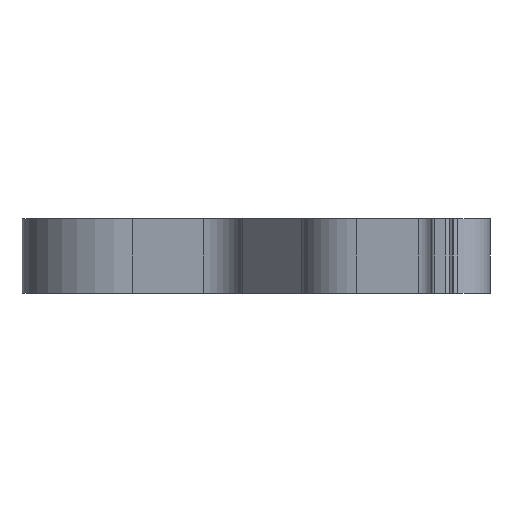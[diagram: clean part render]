
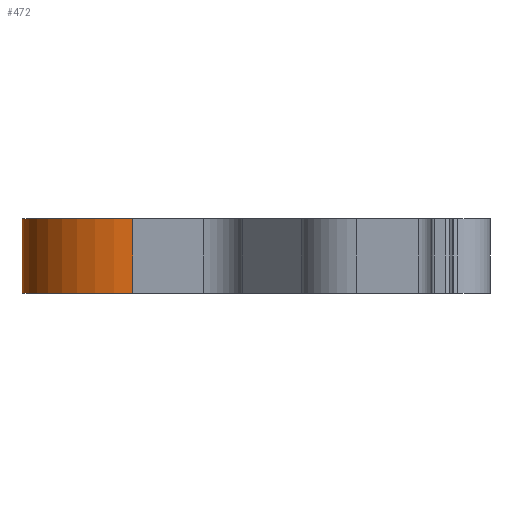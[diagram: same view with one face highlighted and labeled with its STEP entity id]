
A CAD part, front view. The second image highlights one B-rep face of the part: STEP entity #472.
In plain terms, the highlighted cylindrical face has radius 6 mm (diameter 12 mm), a partial arc.
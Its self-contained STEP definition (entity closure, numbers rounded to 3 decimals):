
#389=CARTESIAN_POINT('Vertex',(6.967,6.,2.)) ;
#396=CARTESIAN_POINT('Vertex',(6.967,6.,-2.)) ;
#399=CARTESIAN_POINT('Line Origine',(6.967,6.,0.)) ;
#442=CARTESIAN_POINT('Axis2P3D Location',(7.,0.,0.)) ;
#447=CARTESIAN_POINT('Axis2P3D Location',(7.,0.,2.)) ;
#451=CARTESIAN_POINT('Vertex',(6.967,-6.,2.)) ;
#454=CARTESIAN_POINT('Axis2P3D Location',(7.,0.,-2.)) ;
#458=CARTESIAN_POINT('Vertex',(6.967,-6.,-2.)) ;
#461=CARTESIAN_POINT('Line Origine',(6.967,-6.,0.)) ;
#400=DIRECTION('Vector Direction',(0.,0.,1.)) ;
#443=DIRECTION('Axis2P3D Direction',(0.,-0.,1.)) ;
#444=DIRECTION('Axis2P3D XDirection',(0.012,1.,0.)) ;
#448=DIRECTION('Axis2P3D Direction',(0.,-0.,1.)) ;
#455=DIRECTION('Axis2P3D Direction',(0.,-0.,1.)) ;
#462=DIRECTION('Vector Direction',(0.,0.,1.)) ;
#445=AXIS2_PLACEMENT_3D('Cylinder Axis2P3D',#442,#443,#444) ;
#449=AXIS2_PLACEMENT_3D('Circle Axis2P3D',#447,#448,$) ;
#456=AXIS2_PLACEMENT_3D('Circle Axis2P3D',#454,#455,$) ;
#467=ORIENTED_EDGE('',*,*,#453,.F.) ;
#468=ORIENTED_EDGE('',*,*,#403,.F.) ;
#469=ORIENTED_EDGE('',*,*,#460,.T.) ;
#470=ORIENTED_EDGE('',*,*,#465,.T.) ;
#401=VECTOR('Line Direction',#400,1.) ;
#463=VECTOR('Line Direction',#462,1.) ;
#472=ADVANCED_FACE('\X2\96F64EF651E04F554F53\X0\',(#471),#446,.T.) ;
#450=CIRCLE('generated circle',#449,6.) ;
#457=CIRCLE('generated circle',#456,6.) ;
#446=CYLINDRICAL_SURFACE('generated cylinder',#445,6.) ;
#403=EDGE_CURVE('',#397,#390,#402,.T.) ;
#453=EDGE_CURVE('',#390,#452,#450,.T.) ;
#460=EDGE_CURVE('',#397,#459,#457,.T.) ;
#465=EDGE_CURVE('',#459,#452,#464,.T.) ;
#466=EDGE_LOOP('',(#467,#468,#469,#470)) ;
#471=FACE_OUTER_BOUND('',#466,.T.) ;
#402=LINE('Line',#399,#401) ;
#464=LINE('Line',#461,#463) ;
#390=VERTEX_POINT('',#389) ;
#397=VERTEX_POINT('',#396) ;
#452=VERTEX_POINT('',#451) ;
#459=VERTEX_POINT('',#458) ;
